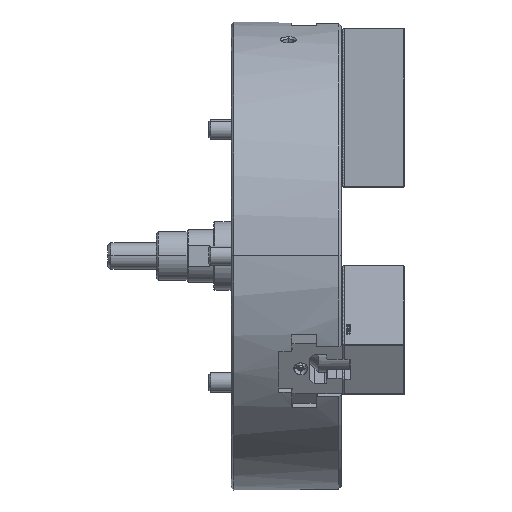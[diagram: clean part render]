
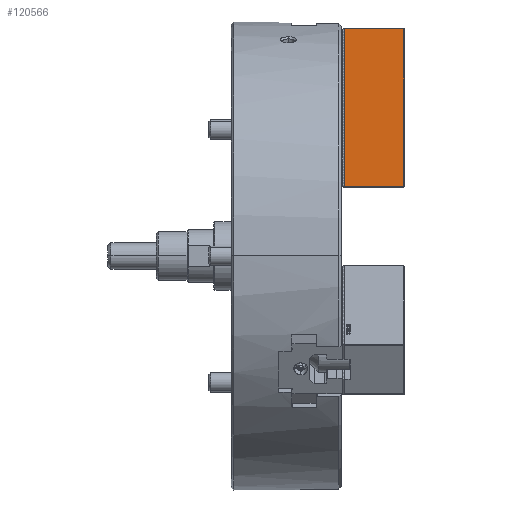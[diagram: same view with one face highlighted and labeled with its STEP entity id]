
A CAD part, top view. The second image highlights one B-rep face of the part: STEP entity #120566.
In plain terms, the highlighted planar face has unit normal (0, 0, 1).
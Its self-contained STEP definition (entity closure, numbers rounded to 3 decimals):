
#11617 = EDGE_CURVE ( 'NONE', #219386, #214085, #131625, .T. ) ;
#14163 = EDGE_CURVE ( 'NONE', #214085, #78599, #75150, .T. ) ;
#15092 = LINE ( 'NONE', #52197, #60204 ) ;
#20801 = CARTESIAN_POINT ( 'NONE',  ( 70., 0.6, 32.5 ) ) ;
#23097 = FACE_OUTER_BOUND ( 'NONE', #197215, .T. ) ;
#23637 = LINE ( 'NONE', #79316, #94755 ) ;
#32310 = VERTEX_POINT ( 'NONE', #36296 ) ;
#36296 = CARTESIAN_POINT ( 'NONE',  ( 2.5, 0.6, 32.5 ) ) ;
#52197 = CARTESIAN_POINT ( 'NONE',  ( 2.5, 180., 32.5 ) ) ;
#60204 = VECTOR ( 'NONE', #123025, 1000. ) ;
#75150 = LINE ( 'NONE', #183099, #134983 ) ;
#78599 = VERTEX_POINT ( 'NONE', #201635 ) ;
#79316 = CARTESIAN_POINT ( 'NONE',  ( 70., 0.6, 32.5 ) ) ;
#91740 = ORIENTED_EDGE ( 'NONE', *, *, #108987, .T. ) ;
#94755 = VECTOR ( 'NONE', #150116, 1000. ) ;
#104697 = VECTOR ( 'NONE', #216440, 1000. ) ;
#107897 = CARTESIAN_POINT ( 'NONE',  ( 69.4, 0.6, 32.5 ) ) ;
#108987 = EDGE_CURVE ( 'NONE', #78599, #32310, #15092, .T. ) ;
#111318 = PLANE ( 'NONE',  #206126 ) ;
#113076 = CARTESIAN_POINT ( 'NONE',  ( 69.4, 0.6, 32.5 ) ) ;
#119833 = EDGE_CURVE ( 'NONE', #219386, #32310, #23637, .T. ) ;
#120566 = ADVANCED_FACE ( 'NONE', ( #23097 ), #111318, .F. ) ;
#122980 = ORIENTED_EDGE ( 'NONE', *, *, #14163, .T. ) ;
#123025 = DIRECTION ( 'NONE',  ( 0., -1., 0. ) ) ;
#128337 = ORIENTED_EDGE ( 'NONE', *, *, #119833, .F. ) ;
#131625 = LINE ( 'NONE', #113076, #104697 ) ;
#134983 = VECTOR ( 'NONE', #149386, 1000. ) ;
#149386 = DIRECTION ( 'NONE',  ( -1., 0., 0. ) ) ;
#150116 = DIRECTION ( 'NONE',  ( -1., 0., 0. ) ) ;
#157761 = CARTESIAN_POINT ( 'NONE',  ( 69.4, 179.4, 32.5 ) ) ;
#181008 = DIRECTION ( 'NONE',  ( -1., 0., 0. ) ) ;
#183099 = CARTESIAN_POINT ( 'NONE',  ( 70., 179.4, 32.5 ) ) ;
#196900 = ORIENTED_EDGE ( 'NONE', *, *, #11617, .T. ) ;
#197215 = EDGE_LOOP ( 'NONE', ( #128337, #196900, #122980, #91740 ) ) ;
#201635 = CARTESIAN_POINT ( 'NONE',  ( 2.5, 179.4, 32.5 ) ) ;
#206126 = AXIS2_PLACEMENT_3D ( 'NONE', #20801, #218136, #181008 ) ;
#214085 = VERTEX_POINT ( 'NONE', #157761 ) ;
#216440 = DIRECTION ( 'NONE',  ( 0., 1., 0. ) ) ;
#218136 = DIRECTION ( 'NONE',  ( 0., 0., -1. ) ) ;
#219386 = VERTEX_POINT ( 'NONE', #107897 ) ;
